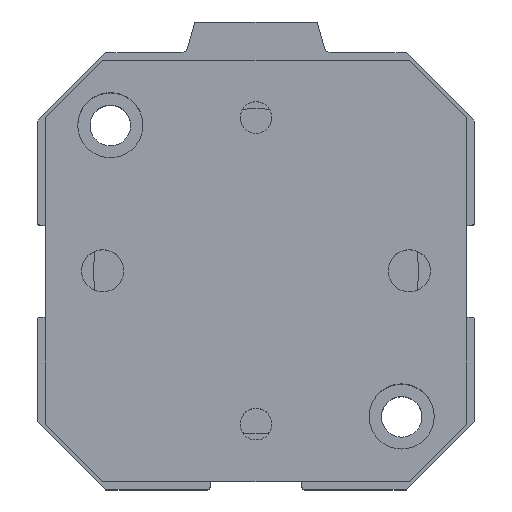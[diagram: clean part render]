
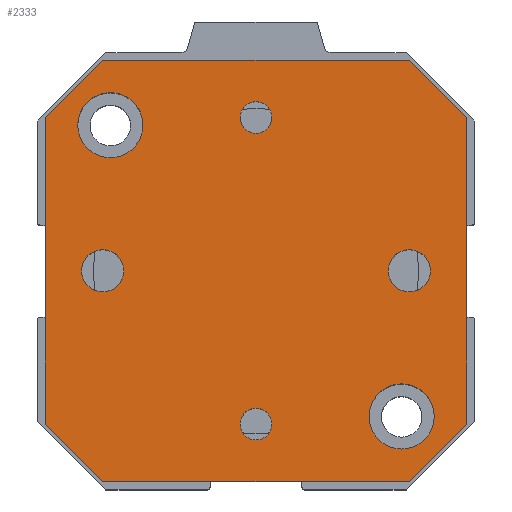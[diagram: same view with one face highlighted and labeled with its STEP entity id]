
A CAD part, top view. The second image highlights one B-rep face of the part: STEP entity #2333.
In plain terms, the highlighted planar face has unit normal (0, 0, 1).
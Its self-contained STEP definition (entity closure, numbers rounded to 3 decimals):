
#177=LINE('',#3896,#343);
#179=LINE('',#3900,#345);
#181=LINE('',#3904,#347);
#183=LINE('',#3908,#349);
#185=LINE('',#3912,#351);
#187=LINE('',#3916,#353);
#189=LINE('',#3920,#355);
#191=LINE('',#3923,#357);
#343=VECTOR('',#3235,40.);
#345=VECTOR('',#3239,10.607);
#347=VECTOR('',#3243,40.);
#349=VECTOR('',#3247,10.607);
#351=VECTOR('',#3251,40.);
#353=VECTOR('',#3255,10.607);
#355=VECTOR('',#3259,40.);
#357=VECTOR('',#3263,10.607);
#431=PLANE('',#2593);
#521=FACE_BOUND('',#846,.T.);
#522=FACE_BOUND('',#847,.T.);
#523=FACE_BOUND('',#848,.T.);
#524=FACE_BOUND('',#849,.T.);
#525=FACE_BOUND('',#850,.T.);
#526=FACE_BOUND('',#851,.T.);
#527=FACE_BOUND('',#852,.T.);
#846=EDGE_LOOP('',(#2038));
#847=EDGE_LOOP('',(#2039));
#848=EDGE_LOOP('',(#2040));
#849=EDGE_LOOP('',(#2041));
#850=EDGE_LOOP('',(#2042));
#851=EDGE_LOOP('',(#2043));
#852=EDGE_LOOP('',(#2044,#2045,#2046,#2047,#2048,#2049,#2050,#2051));
#961=CIRCLE('',#2549,2.067);
#963=CIRCLE('',#2552,2.067);
#968=CIRCLE('',#2560,2.75);
#972=CIRCLE('',#2567,2.75);
#981=CIRCLE('',#2582,4.25);
#982=CIRCLE('',#2584,4.25);
#1157=VERTEX_POINT('',#3814);
#1159=VERTEX_POINT('',#3819);
#1164=VERTEX_POINT('',#3832);
#1168=VERTEX_POINT('',#3843);
#1187=VERTEX_POINT('',#3887);
#1188=VERTEX_POINT('',#3890);
#1189=VERTEX_POINT('',#3893);
#1190=VERTEX_POINT('',#3895);
#1191=VERTEX_POINT('',#3899);
#1192=VERTEX_POINT('',#3903);
#1193=VERTEX_POINT('',#3907);
#1194=VERTEX_POINT('',#3911);
#1195=VERTEX_POINT('',#3915);
#1196=VERTEX_POINT('',#3919);
#1437=EDGE_CURVE('',#1157,#1157,#961,.T.);
#1439=EDGE_CURVE('',#1159,#1159,#963,.T.);
#1444=EDGE_CURVE('',#1164,#1164,#968,.T.);
#1448=EDGE_CURVE('',#1168,#1168,#972,.T.);
#1467=EDGE_CURVE('',#1187,#1187,#981,.T.);
#1468=EDGE_CURVE('',#1188,#1188,#982,.T.);
#1470=EDGE_CURVE('',#1190,#1189,#177,.T.);
#1472=EDGE_CURVE('',#1191,#1190,#179,.T.);
#1474=EDGE_CURVE('',#1192,#1191,#181,.T.);
#1476=EDGE_CURVE('',#1193,#1192,#183,.T.);
#1478=EDGE_CURVE('',#1194,#1193,#185,.T.);
#1480=EDGE_CURVE('',#1195,#1194,#187,.T.);
#1482=EDGE_CURVE('',#1196,#1195,#189,.T.);
#1484=EDGE_CURVE('',#1189,#1196,#191,.T.);
#2038=ORIENTED_EDGE('',*,*,#1437,.T.);
#2039=ORIENTED_EDGE('',*,*,#1439,.T.);
#2040=ORIENTED_EDGE('',*,*,#1444,.T.);
#2041=ORIENTED_EDGE('',*,*,#1448,.T.);
#2042=ORIENTED_EDGE('',*,*,#1467,.T.);
#2043=ORIENTED_EDGE('',*,*,#1468,.T.);
#2044=ORIENTED_EDGE('',*,*,#1484,.T.);
#2045=ORIENTED_EDGE('',*,*,#1482,.T.);
#2046=ORIENTED_EDGE('',*,*,#1480,.T.);
#2047=ORIENTED_EDGE('',*,*,#1478,.T.);
#2048=ORIENTED_EDGE('',*,*,#1476,.T.);
#2049=ORIENTED_EDGE('',*,*,#1474,.T.);
#2050=ORIENTED_EDGE('',*,*,#1472,.T.);
#2051=ORIENTED_EDGE('',*,*,#1470,.T.);
#2333=ADVANCED_FACE('',(#521,#522,#523,#524,#525,#526,#527),#431,.T.);
#2549=AXIS2_PLACEMENT_3D('',#3815,#3150,#3151);
#2552=AXIS2_PLACEMENT_3D('',#3820,#3156,#3157);
#2560=AXIS2_PLACEMENT_3D('',#3833,#3172,#3173);
#2567=AXIS2_PLACEMENT_3D('',#3844,#3186,#3187);
#2582=AXIS2_PLACEMENT_3D('',#3888,#3226,#3227);
#2584=AXIS2_PLACEMENT_3D('',#3891,#3230,#3231);
#2593=AXIS2_PLACEMENT_3D('',#3924,#3264,#3265);
#3150=DIRECTION('center_axis',(0.,0.,-1.));
#3151=DIRECTION('ref_axis',(1.,0.,0.));
#3156=DIRECTION('center_axis',(0.,0.,-1.));
#3157=DIRECTION('ref_axis',(1.,0.,0.));
#3172=DIRECTION('center_axis',(0.,0.,-1.));
#3173=DIRECTION('ref_axis',(1.,0.,0.));
#3186=DIRECTION('center_axis',(0.,0.,-1.));
#3187=DIRECTION('ref_axis',(1.,0.,0.));
#3226=DIRECTION('center_axis',(0.,0.,-1.));
#3227=DIRECTION('ref_axis',(-1.,0.,0.));
#3230=DIRECTION('center_axis',(0.,0.,-1.));
#3231=DIRECTION('ref_axis',(-1.,0.,0.));
#3235=DIRECTION('',(0.,1.,0.));
#3239=DIRECTION('',(0.707,0.707,0.));
#3243=DIRECTION('',(1.,0.,0.));
#3247=DIRECTION('',(0.707,-0.707,0.));
#3251=DIRECTION('',(0.,-1.,0.));
#3255=DIRECTION('',(-0.707,-0.707,0.));
#3259=DIRECTION('',(-1.,0.,0.));
#3263=DIRECTION('',(-0.707,0.707,0.));
#3264=DIRECTION('center_axis',(0.,0.,1.));
#3265=DIRECTION('ref_axis',(1.,0.,0.));
#3814=CARTESIAN_POINT('',(-22.067,0.,30.25));
#3815=CARTESIAN_POINT('Origin',(-20.,0.,30.25));
#3819=CARTESIAN_POINT('',(17.933,0.,30.25));
#3820=CARTESIAN_POINT('Origin',(20.,0.,30.25));
#3832=CARTESIAN_POINT('',(-2.75,20.,30.25));
#3833=CARTESIAN_POINT('Origin',(0.,20.,30.25));
#3843=CARTESIAN_POINT('',(-2.75,-20.,30.25));
#3844=CARTESIAN_POINT('Origin',(0.,-20.,30.25));
#3887=CARTESIAN_POINT('',(-14.75,-19.,30.25));
#3888=CARTESIAN_POINT('Origin',(-19.,-19.,30.25));
#3890=CARTESIAN_POINT('',(23.25,19.,30.25));
#3891=CARTESIAN_POINT('Origin',(19.,19.,30.25));
#3893=CARTESIAN_POINT('',(27.5,20.,30.25));
#3895=CARTESIAN_POINT('',(27.5,-20.,30.25));
#3896=CARTESIAN_POINT('',(27.5,20.,30.25));
#3899=CARTESIAN_POINT('',(20.,-27.5,30.25));
#3900=CARTESIAN_POINT('',(27.5,-20.,30.25));
#3903=CARTESIAN_POINT('',(-20.,-27.5,30.25));
#3904=CARTESIAN_POINT('',(20.,-27.5,30.25));
#3907=CARTESIAN_POINT('',(-27.5,-20.,30.25));
#3908=CARTESIAN_POINT('',(-20.,-27.5,30.25));
#3911=CARTESIAN_POINT('',(-27.5,20.,30.25));
#3912=CARTESIAN_POINT('',(-27.5,-20.,30.25));
#3915=CARTESIAN_POINT('',(-20.,27.5,30.25));
#3916=CARTESIAN_POINT('',(-27.5,20.,30.25));
#3919=CARTESIAN_POINT('',(20.,27.5,30.25));
#3920=CARTESIAN_POINT('',(-20.,27.5,30.25));
#3923=CARTESIAN_POINT('',(20.,27.5,30.25));
#3924=CARTESIAN_POINT('Origin',(0.,0.,30.25));
